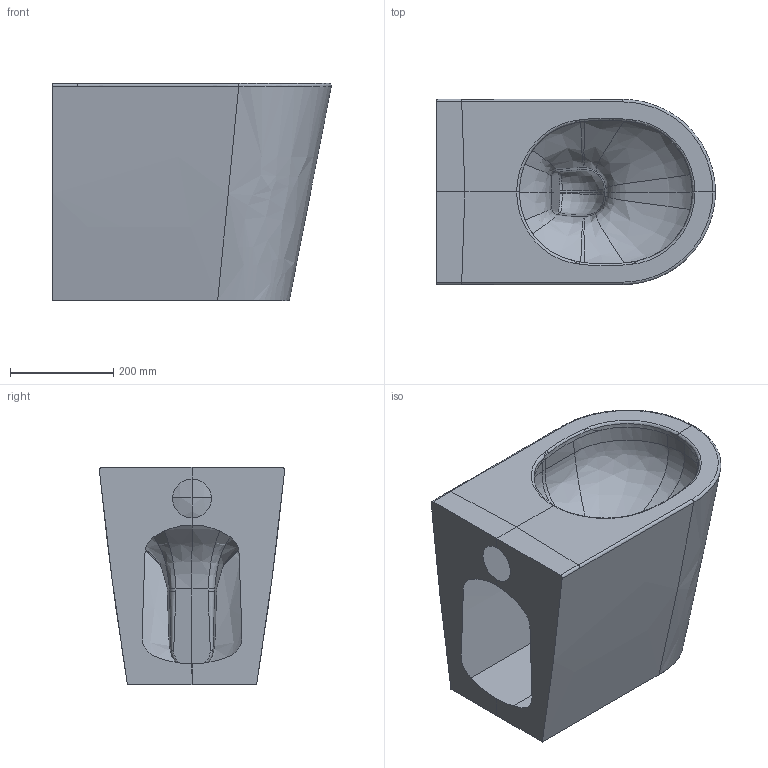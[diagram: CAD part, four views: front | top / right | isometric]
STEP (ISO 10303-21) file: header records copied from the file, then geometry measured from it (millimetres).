
FILE_DESCRIPTION(('CATIA V5 STEP Exchange'),'2;1');
FILE_NAME('C:\Users\167035\Downloads\7351\3D 7351.stp','2025-07-21T09:07:56+00:00',('none'),('none'),'CATIA Version 5 Release 19 SP 5 (IN-10)','CATIA V5 STEP AP214','none');
FILE_SCHEMA(('AUTOMOTIVE_DESIGN { 1 0 10303 214 1 1 1 1 }'));
Length unit declared in the file: millimetre
Products named in the file (1): 3D 7351
Bounding box: 539.41 x 358.59 x 420 mm (x, y, z)
Surface area: 1066145.2 mm2 (no closed solid volume)
Topology: 0 solids, 6 shells, 102 faces, 271 edges, 172 vertices
Faces by surface type: bspline 80, plane 10, cylinder 6, extrusion 6
Entity records: 13941 total; most frequent: CARTESIAN_POINT 12129, ORIENTED_EDGE 468, EDGE_CURVE 269, B_SPLINE_CURVE_WITH_KNOTS 228, VERTEX_POINT 172, ADVANCED_FACE 102, EDGE_LOOP 102, FACE_OUTER_BOUND 102
